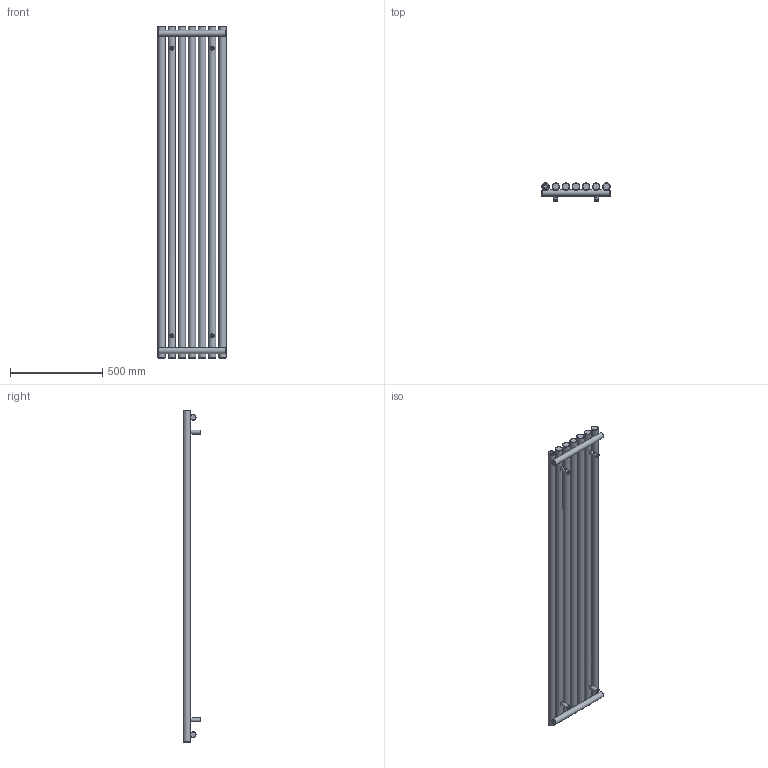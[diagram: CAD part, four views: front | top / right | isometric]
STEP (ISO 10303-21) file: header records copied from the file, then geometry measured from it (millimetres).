
FILE_DESCRIPTION(/* description */ (''),/* implementation_level */ '2;1');
FILE_NAME(/* name */ 'Z:\R\G\P\RGP116 - Grzejniki Geyser\Work\Inventor\Circolo (Rolo V, Rolo H)\ROLO-ROOM\Marketing\Zaokrąglone\WGROR180037-SX-CK-(Z).stp',/* time_stamp */ '2024-01-19T11:44:34+01:00',/* author */ ('NowAd'),/* organization */ (''),/* preprocessor_version */ 'ST-DEVELOPER v17.2',/* originating_system */ 'Autodesk Inventor 2019',/* authorisation */ '');
FILE_SCHEMA (('AUTOMOTIVE_DESIGN { 1 0 10303 214 3 1 1 }'));
Length unit declared in the file: millimetre
Products named in the file (3): WGROR180037-SX-CK-(Z); PGROR180037-SX-CK-(K); CK-V-fi40 marketing
Assembly tree (5 placements, depth 2):
  WGROR180037-SX-CK-(Z)
    PGROR180037-SX-CK-(K)
    CK-V-fi40 marketing  x4
Bounding box: 370 x 96.5 x 1800 mm (x, y, z)
Volume: 16466453.1 mm3; surface area: 1701937.7 mm2
Topology: 5 solids, 5 shells, 333 faces, 834 edges, 558 vertices
Faces by surface type: plane 137, cylinder 76, cone 60, torus 46, bspline 14
Full cylindrical faces by diameter (mm): 4.134 x4, 4.48 x4, 6.4 x4, 10 x4, 12 x4, 15.834 x4, 16 x4, 18.631 x3, 22 x4, 32 x2, 40 x7
Entity records: 7782 total; most frequent: CARTESIAN_POINT 4186, DIRECTION 751, ORIENTED_EDGE 706, EDGE_CURVE 353, AXIS2_PLACEMENT_3D 337, VERTEX_POINT 240, EDGE_LOOP 197, CIRCLE 185
